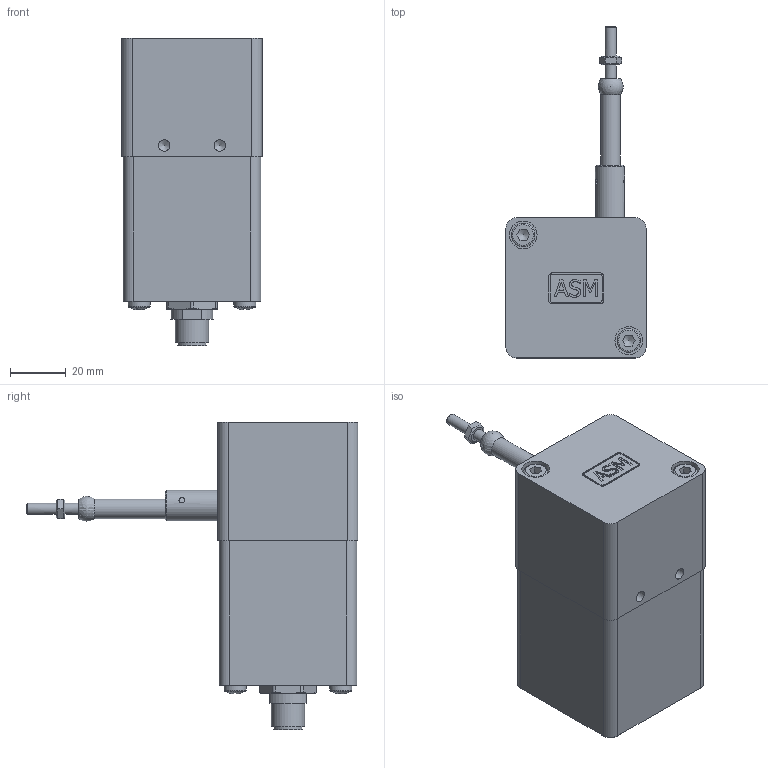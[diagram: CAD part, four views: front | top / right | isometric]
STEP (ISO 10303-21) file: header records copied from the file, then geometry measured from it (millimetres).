
FILE_DESCRIPTION((''),'2;1');
FILE_NAME('K:\Daten\WS10-375-M4.stp','2011-08-30T13:12:24',('kamp'),(''),'Autodesk Inventor 2008','Autodesk Inventor 2008','');
FILE_SCHEMA(('AUTOMOTIVE_DESIGN { 1 0 10303 214 1 1 1 1 }'));
Length unit declared in the file: millimetre
Products named in the file (1): Bauteil11
Bounding box: 50.35 x 119.35 x 110.4 mm (x, y, z)
Volume: 238663.8 mm3; surface area: 27402 mm2
Topology: 1 solids, 1 shells, 251 faces, 642 edges, 425 vertices
Faces by surface type: plane 138, bspline 54, cylinder 45, cone 11, torus 2, sphere 1
Full cylindrical faces by diameter (mm): 0.6 x8, 4 x2, 7 x1, 8 x2, 8.5 x2, 10.4 x1, 12 x1
Entity records: 8000 total; most frequent: CARTESIAN_POINT 2664, ORIENTED_EDGE 1116, DIRECTION 951, EDGE_CURVE 558, VERTEX_POINT 394, EDGE_LOOP 336, AXIS2_PLACEMENT_3D 323, VECTOR 305
